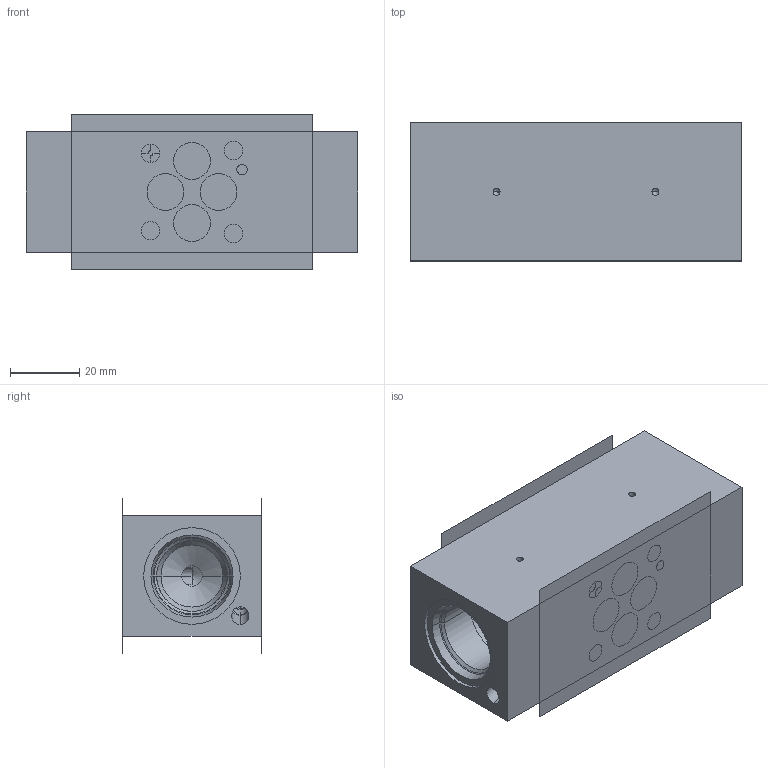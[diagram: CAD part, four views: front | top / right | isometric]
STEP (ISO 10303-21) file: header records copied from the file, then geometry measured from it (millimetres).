
FILE_DESCRIPTION((''),'2;1');
FILE_NAME('1000376296','2023-10-12T',('l.soukupova'),(''),'PRO/ENGINEER BY PARAMETRIC TECHNOLOGY CORPORATION, 2015440','PRO/ENGINEER BY PARAMETRIC TECHNOLOGY CORPORATION, 2015440','');
FILE_SCHEMA(('AUTOMOTIVE_DESIGN { 1 0 10303 214 1 1 1 1 }'));
Length unit declared in the file: millimetre
Products named in the file (1): 1000376296
Bounding box: 96 x 40 x 45 mm (x, y, z)
Volume: 104396.4 mm3; surface area: 35109 mm2
Topology: 1 solids, 9 shells, 136 faces, 493 edges, 440 vertices
Faces by surface type: cylinder 74, cone 42, plane 20
Entity records: 8464 total; most frequent: CARTESIAN_POINT 1907, DIRECTION 941, ORIENTED_EDGE 648, PRESENTATION_STYLE_ASSIGNMENT 597, STYLED_ITEM 539, CURVE_STYLE 532, AXIS2_PLACEMENT_3D 344, EDGE_CURVE 340
